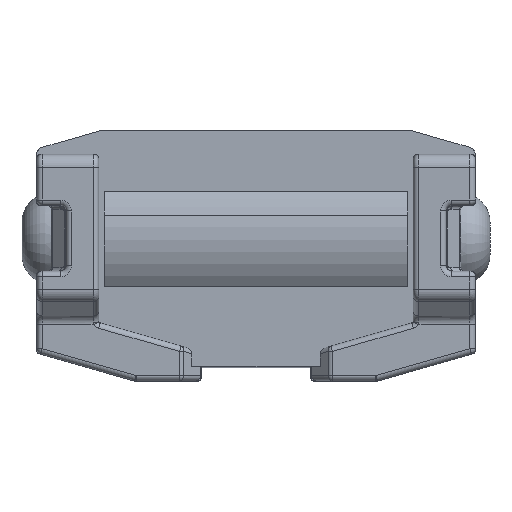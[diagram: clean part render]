
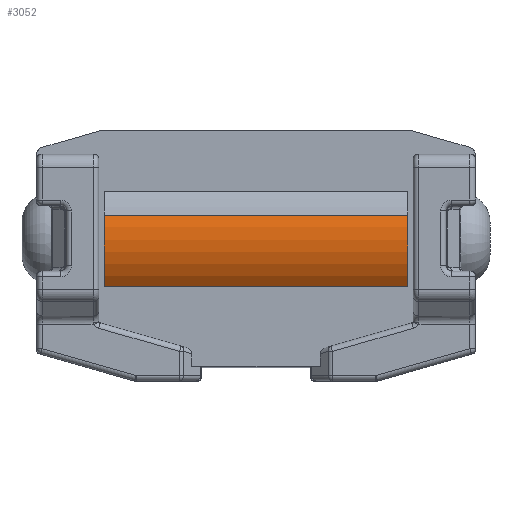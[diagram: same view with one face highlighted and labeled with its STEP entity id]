
A CAD part, top view. The second image highlights one B-rep face of the part: STEP entity #3052.
In plain terms, the highlighted cylindrical face has radius 2.1 mm (diameter 4.2 mm), a partial arc.
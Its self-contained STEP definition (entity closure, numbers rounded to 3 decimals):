
#443 = DIRECTION ( 'NONE',  ( 1., 0., 0. ) ) ;
#739 = VERTEX_POINT ( 'NONE', #5066 ) ;
#774 = LINE ( 'NONE', #4973, #10136 ) ;
#827 = LINE ( 'NONE', #5015, #12185 ) ;
#2826 = EDGE_CURVE ( 'NONE', #739, #4170, #11537, .T. ) ;
#3052 = ADVANCED_FACE ( 'NONE', ( #10418 ), #13533, .T. ) ;
#3055 = ORIENTED_EDGE ( 'NONE', *, *, #6021, .F. ) ;
#3496 = CARTESIAN_POINT ( 'NONE',  ( 4.15, 0., 0. ) ) ;
#4170 = VERTEX_POINT ( 'NONE', #9861 ) ;
#4436 = CARTESIAN_POINT ( 'NONE',  ( -4.15, 0., 0. ) ) ;
#4582 = DIRECTION ( 'NONE',  ( 0., 0.303, 0.953 ) ) ;
#4595 = DIRECTION ( 'NONE',  ( 0., -0.303, -0.953 ) ) ;
#4597 = DIRECTION ( 'NONE',  ( 0., -0.303, -0.953 ) ) ;
#4652 = DIRECTION ( 'NONE',  ( -1., 0., 0. ) ) ;
#4973 = CARTESIAN_POINT ( 'NONE',  ( -4.15, 0.636, 2.001 ) ) ;
#5015 = CARTESIAN_POINT ( 'NONE',  ( -4.15, -1.299, 1.65 ) ) ;
#5066 = CARTESIAN_POINT ( 'NONE',  ( 4.15, -1.299, 1.65 ) ) ;
#5544 = EDGE_CURVE ( 'NONE', #739, #12062, #827, .T. ) ;
#6021 = EDGE_CURVE ( 'NONE', #12062, #12739, #6344, .T. ) ;
#6344 = CIRCLE ( 'NONE', #10499, 2.1 ) ;
#7146 = ORIENTED_EDGE ( 'NONE', *, *, #12321, .F. ) ;
#7680 = CARTESIAN_POINT ( 'NONE',  ( -4.15, 0., 0. ) ) ;
#9170 = DIRECTION ( 'NONE',  ( 1., 0., 0. ) ) ;
#9212 = DIRECTION ( 'NONE',  ( -1., 0., 0. ) ) ;
#9363 = AXIS2_PLACEMENT_3D ( 'NONE', #4436, #443, #4582 ) ;
#9861 = CARTESIAN_POINT ( 'NONE',  ( 4.15, 0.636, 2.001 ) ) ;
#10136 = VECTOR ( 'NONE', #9170, 1000. ) ;
#10418 = FACE_OUTER_BOUND ( 'NONE', #11658, .T. ) ;
#10499 = AXIS2_PLACEMENT_3D ( 'NONE', #7680, #4652, #4595 ) ;
#11319 = AXIS2_PLACEMENT_3D ( 'NONE', #3496, #12992, #4597 ) ;
#11537 = CIRCLE ( 'NONE', #11319, 2.1 ) ;
#11593 = CARTESIAN_POINT ( 'NONE',  ( -4.15, -1.299, 1.65 ) ) ;
#11658 = EDGE_LOOP ( 'NONE', ( #7146, #3055, #12130, #12452 ) ) ;
#11798 = CARTESIAN_POINT ( 'NONE',  ( -4.15, 0.636, 2.001 ) ) ;
#12062 = VERTEX_POINT ( 'NONE', #11593 ) ;
#12130 = ORIENTED_EDGE ( 'NONE', *, *, #5544, .F. ) ;
#12185 = VECTOR ( 'NONE', #9212, 1000. ) ;
#12321 = EDGE_CURVE ( 'NONE', #12739, #4170, #774, .T. ) ;
#12452 = ORIENTED_EDGE ( 'NONE', *, *, #2826, .T. ) ;
#12739 = VERTEX_POINT ( 'NONE', #11798 ) ;
#12992 = DIRECTION ( 'NONE',  ( -1., 0., 0. ) ) ;
#13533 = CYLINDRICAL_SURFACE ( 'NONE', #9363, 2.1 ) ;
